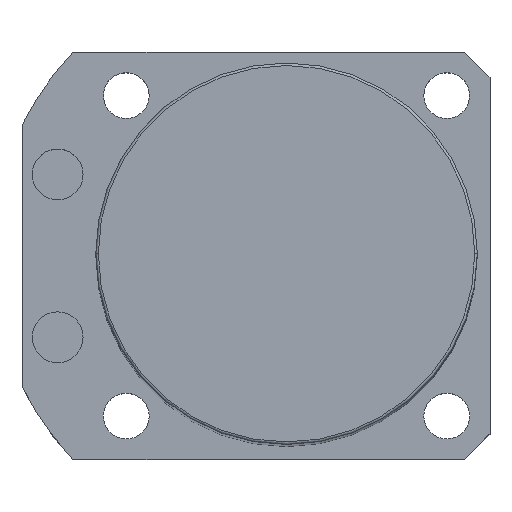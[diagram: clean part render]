
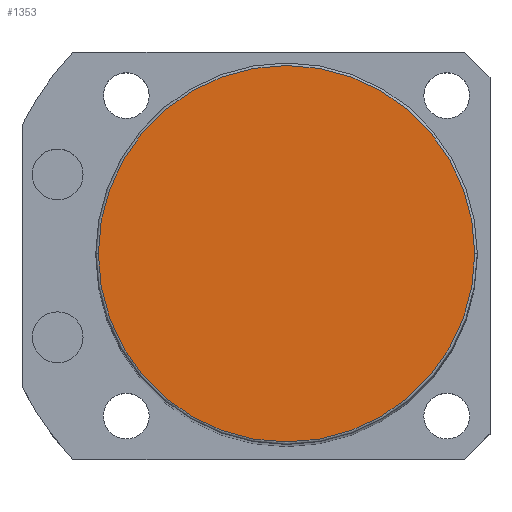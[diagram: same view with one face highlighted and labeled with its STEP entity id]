
A CAD part, top view. The second image highlights one B-rep face of the part: STEP entity #1353.
In plain terms, the highlighted planar face has unit normal (0, 0, 1).
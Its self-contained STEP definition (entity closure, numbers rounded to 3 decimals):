
#38 = AXIS2_PLACEMENT_3D ( 'NONE', #404, #1351, #1367 ) ;
#50 = EDGE_LOOP ( 'NONE', ( #894, #1445 ) ) ;
#115 = VERTEX_POINT ( 'NONE', #940 ) ;
#285 = CARTESIAN_POINT ( 'NONE',  ( 0., 0., 255.5 ) ) ;
#306 = AXIS2_PLACEMENT_3D ( 'NONE', #1549, #1902, #1171 ) ;
#404 = CARTESIAN_POINT ( 'NONE',  ( 0., 0., 255.5 ) ) ;
#417 = AXIS2_PLACEMENT_3D ( 'NONE', #285, #485, #1623 ) ;
#485 = DIRECTION ( 'NONE',  ( 0., 0., 1. ) ) ;
#506 = CIRCLE ( 'NONE', #306, 37. ) ;
#507 = EDGE_CURVE ( 'NONE', #115, #1182, #506, .T. ) ;
#537 = EDGE_CURVE ( 'NONE', #1182, #115, #680, .T. ) ;
#680 = CIRCLE ( 'NONE', #38, 37. ) ;
#894 = ORIENTED_EDGE ( 'NONE', *, *, #507, .T. ) ;
#940 = CARTESIAN_POINT ( 'NONE',  ( 37., 0., 255.5 ) ) ;
#1171 = DIRECTION ( 'NONE',  ( 1., 0., 0. ) ) ;
#1182 = VERTEX_POINT ( 'NONE', #1759 ) ;
#1351 = DIRECTION ( 'NONE',  ( 0., 0., 1. ) ) ;
#1353 = ADVANCED_FACE ( 'NONE', ( #1680 ), #1998, .T. ) ;
#1367 = DIRECTION ( 'NONE',  ( 1., 0., 0. ) ) ;
#1445 = ORIENTED_EDGE ( 'NONE', *, *, #537, .T. ) ;
#1549 = CARTESIAN_POINT ( 'NONE',  ( 0., 0., 255.5 ) ) ;
#1623 = DIRECTION ( 'NONE',  ( 1., 0., 0. ) ) ;
#1680 = FACE_OUTER_BOUND ( 'NONE', #50, .T. ) ;
#1759 = CARTESIAN_POINT ( 'NONE',  ( -37., 0., 255.5 ) ) ;
#1902 = DIRECTION ( 'NONE',  ( 0., 0., 1. ) ) ;
#1998 = PLANE ( 'NONE',  #417 ) ;
